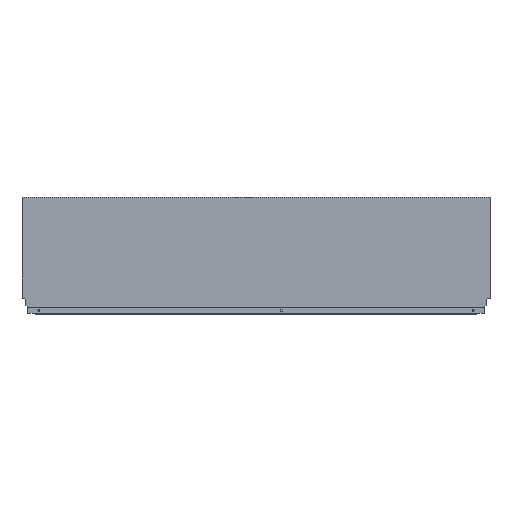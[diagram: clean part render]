
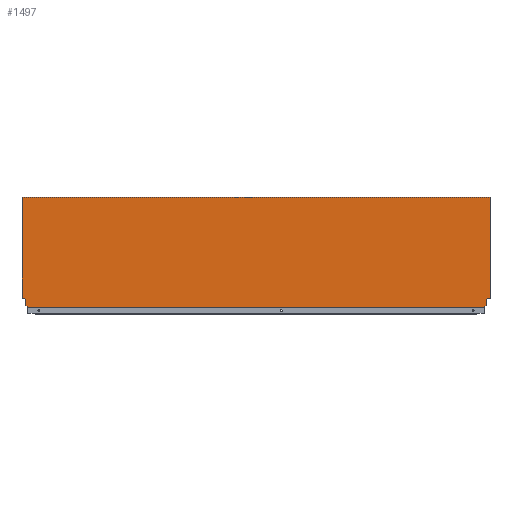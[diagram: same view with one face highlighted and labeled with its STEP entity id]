
A CAD part, top view. The second image highlights one B-rep face of the part: STEP entity #1497.
In plain terms, the highlighted planar face has unit normal (0, 0, 1).
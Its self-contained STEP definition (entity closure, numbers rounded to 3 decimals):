
#16 = AXIS2_PLACEMENT_3D ( 'NONE', #1072, #1213, #1212 ) ;
#68 = EDGE_CURVE ( 'NONE', #1339, #1034, #293, .T. ) ;
#69 = EDGE_CURVE ( 'NONE', #1034, #863, #587, .T. ) ;
#70 = EDGE_CURVE ( 'NONE', #863, #859, #278, .T. ) ;
#71 = EDGE_CURVE ( 'NONE', #859, #1042, #274, .T. ) ;
#72 = EDGE_CURVE ( 'NONE', #866, #872, #291, .T. ) ;
#192 = EDGE_CURVE ( 'NONE', #852, #1040, #644, .T. ) ;
#193 = EDGE_CURVE ( 'NONE', #1040, #841, #640, .T. ) ;
#194 = EDGE_CURVE ( 'NONE', #841, #1058, #603, .T. ) ;
#195 = EDGE_CURVE ( 'NONE', #857, #1064, #604, .T. ) ;
#196 = EDGE_CURVE ( 'NONE', #1058, #874, #606, .T. ) ;
#197 = EDGE_CURVE ( 'NONE', #874, #857, #295, .T. ) ;
#198 = EDGE_CURVE ( 'NONE', #852, #1042, #1496, .T. ) ;
#199 = EDGE_CURVE ( 'NONE', #1064, #872, #836, .T. ) ;
#274 = LINE ( 'NONE', #1024, #288 ) ;
#275 = VECTOR ( 'NONE', #1027, 1000. ) ;
#278 = LINE ( 'NONE', #1026, #290 ) ;
#286 = VECTOR ( 'NONE', #1019, 1000. ) ;
#288 = VECTOR ( 'NONE', #1021, 1000. ) ;
#290 = VECTOR ( 'NONE', #1023, 1000. ) ;
#291 = LINE ( 'NONE', #1022, #286 ) ;
#292 = VECTOR ( 'NONE', #1025, 1000. ) ;
#293 = LINE ( 'NONE', #839, #275 ) ;
#295 = LINE ( 'NONE', #1293, #1495 ) ;
#296 = VECTOR ( 'NONE', #1294, 1000. ) ;
#476 = ORIENTED_EDGE ( 'NONE', *, *, #71, .F. ) ;
#477 = ORIENTED_EDGE ( 'NONE', *, *, #70, .F. ) ;
#478 = ORIENTED_EDGE ( 'NONE', *, *, #69, .F. ) ;
#479 = ORIENTED_EDGE ( 'NONE', *, *, #192, .F. ) ;
#482 = ORIENTED_EDGE ( 'NONE', *, *, #196, .F. ) ;
#483 = ORIENTED_EDGE ( 'NONE', *, *, #194, .F. ) ;
#484 = ORIENTED_EDGE ( 'NONE', *, *, #193, .F. ) ;
#485 = ORIENTED_EDGE ( 'NONE', *, *, #199, .F. ) ;
#486 = ORIENTED_EDGE ( 'NONE', *, *, #195, .F. ) ;
#487 = ORIENTED_EDGE ( 'NONE', *, *, #197, .F. ) ;
#488 = ORIENTED_EDGE ( 'NONE', *, *, #68, .F. ) ;
#489 = ORIENTED_EDGE ( 'NONE', *, *, #876, .F. ) ;
#490 = ORIENTED_EDGE ( 'NONE', *, *, #72, .T. ) ;
#524 = EDGE_LOOP ( 'NONE', ( #592, #476, #477, #478, #488, #489, #490, #485, #486, #487, #482, #483, #484, #479 ) ) ;
#587 = LINE ( 'NONE', #1028, #292 ) ;
#592 = ORIENTED_EDGE ( 'NONE', *, *, #198, .T. ) ;
#601 = VECTOR ( 'NONE', #1320, 1000. ) ;
#602 = VECTOR ( 'NONE', #1130, 1000. ) ;
#603 = LINE ( 'NONE', #1296, #602 ) ;
#604 = LINE ( 'NONE', #1249, #605 ) ;
#605 = VECTOR ( 'NONE', #1323, 1000. ) ;
#606 = LINE ( 'NONE', #1322, #296 ) ;
#638 = VECTOR ( 'NONE', #1302, 1000. ) ;
#640 = LINE ( 'NONE', #1319, #601 ) ;
#644 = LINE ( 'NONE', #1102, #638 ) ;
#825 = FACE_OUTER_BOUND ( 'NONE', #524, .T. ) ;
#827 = VECTOR ( 'NONE', #1271, 1000. ) ;
#829 = LINE ( 'NONE', #1268, #827 ) ;
#836 = LINE ( 'NONE', #1197, #837 ) ;
#837 = VECTOR ( 'NONE', #1289, 1000. ) ;
#838 = VECTOR ( 'NONE', #1288, 1000. ) ;
#839 = CARTESIAN_POINT ( 'NONE',  ( -1104.1, 2.64, 8. ) ) ;
#841 = VERTEX_POINT ( 'NONE', #1256 ) ;
#852 = VERTEX_POINT ( 'NONE', #1112 ) ;
#857 = VERTEX_POINT ( 'NONE', #1490 ) ;
#859 = VERTEX_POINT ( 'NONE', #1117 ) ;
#863 = VERTEX_POINT ( 'NONE', #1156 ) ;
#866 = VERTEX_POINT ( 'NONE', #1139 ) ;
#872 = VERTEX_POINT ( 'NONE', #1169 ) ;
#874 = VERTEX_POINT ( 'NONE', #1177 ) ;
#876 = EDGE_CURVE ( 'NONE', #866, #1339, #829, .T. ) ;
#1019 = DIRECTION ( 'NONE',  ( 1., 0., 0. ) ) ;
#1021 = DIRECTION ( 'NONE',  ( -1., 0., 0. ) ) ;
#1022 = CARTESIAN_POINT ( 'NONE',  ( -1113., 0., 8. ) ) ;
#1023 = DIRECTION ( 'NONE',  ( -0.174, 0.985, 0. ) ) ;
#1024 = CARTESIAN_POINT ( 'NONE',  ( -1118., 21.2, 8. ) ) ;
#1025 = DIRECTION ( 'NONE',  ( 0., 1., 0. ) ) ;
#1026 = CARTESIAN_POINT ( 'NONE',  ( -1105.94, 21.2, 8. ) ) ;
#1027 = DIRECTION ( 'NONE',  ( -0.94, 0.342, 0. ) ) ;
#1028 = CARTESIAN_POINT ( 'NONE',  ( -1104.1, 10.765, 8. ) ) ;
#1034 = VERTEX_POINT ( 'NONE', #1273 ) ;
#1040 = VERTEX_POINT ( 'NONE', #1215 ) ;
#1042 = VERTEX_POINT ( 'NONE', #1218 ) ;
#1058 = VERTEX_POINT ( 'NONE', #1417 ) ;
#1064 = VERTEX_POINT ( 'NONE', #1468 ) ;
#1072 = CARTESIAN_POINT ( 'NONE',  ( -1113., 0., 8. ) ) ;
#1075 = PLANE ( 'NONE',  #16 ) ;
#1080 = CARTESIAN_POINT ( 'NONE',  ( -1099.996, 1.146, 8. ) ) ;
#1102 = CARTESIAN_POINT ( 'NONE',  ( -1113., 260.7, 8. ) ) ;
#1112 = CARTESIAN_POINT ( 'NONE',  ( -1113., 260.7, 8. ) ) ;
#1117 = CARTESIAN_POINT ( 'NONE',  ( -1105.94, 21.2, 8. ) ) ;
#1130 = DIRECTION ( 'NONE',  ( -1., 0., 0. ) ) ;
#1139 = CARTESIAN_POINT ( 'NONE',  ( -1099.996, 0., 8. ) ) ;
#1156 = CARTESIAN_POINT ( 'NONE',  ( -1104.1, 10.765, 8. ) ) ;
#1169 = CARTESIAN_POINT ( 'NONE',  ( -13.004, 0., 8. ) ) ;
#1177 = CARTESIAN_POINT ( 'NONE',  ( -8.9, 10.765, 8. ) ) ;
#1192 = CARTESIAN_POINT ( 'NONE',  ( -1113., 0., 8. ) ) ;
#1197 = CARTESIAN_POINT ( 'NONE',  ( -13.004, 1.146, 8. ) ) ;
#1212 = DIRECTION ( 'NONE',  ( 1., 0., 0. ) ) ;
#1213 = DIRECTION ( 'NONE',  ( 0., 0., 1. ) ) ;
#1215 = CARTESIAN_POINT ( 'NONE',  ( 0., 260.7, 8. ) ) ;
#1218 = CARTESIAN_POINT ( 'NONE',  ( -1113., 21.2, 8. ) ) ;
#1249 = CARTESIAN_POINT ( 'NONE',  ( -8.9, 2.64, 8. ) ) ;
#1256 = CARTESIAN_POINT ( 'NONE',  ( 0., 21.2, 8. ) ) ;
#1268 = CARTESIAN_POINT ( 'NONE',  ( -1099.996, 1.146, 8. ) ) ;
#1271 = DIRECTION ( 'NONE',  ( 0., 1., 0. ) ) ;
#1273 = CARTESIAN_POINT ( 'NONE',  ( -1104.1, 2.64, 8. ) ) ;
#1288 = DIRECTION ( 'NONE',  ( 0., -1., 0. ) ) ;
#1289 = DIRECTION ( 'NONE',  ( 0., -1., 0. ) ) ;
#1293 = CARTESIAN_POINT ( 'NONE',  ( -8.9, 10.765, 8. ) ) ;
#1294 = DIRECTION ( 'NONE',  ( -0.174, -0.985, 0. ) ) ;
#1296 = CARTESIAN_POINT ( 'NONE',  ( 0., 21.2, 8. ) ) ;
#1302 = DIRECTION ( 'NONE',  ( 1., 0., 0. ) ) ;
#1319 = CARTESIAN_POINT ( 'NONE',  ( 0., 0., 8. ) ) ;
#1320 = DIRECTION ( 'NONE',  ( 0., -1., 0. ) ) ;
#1322 = CARTESIAN_POINT ( 'NONE',  ( -7.06, 21.2, 8. ) ) ;
#1323 = DIRECTION ( 'NONE',  ( -0.94, -0.342, 0. ) ) ;
#1339 = VERTEX_POINT ( 'NONE', #1080 ) ;
#1398 = DIRECTION ( 'NONE',  ( 0., -1., 0. ) ) ;
#1417 = CARTESIAN_POINT ( 'NONE',  ( -7.06, 21.2, 8. ) ) ;
#1468 = CARTESIAN_POINT ( 'NONE',  ( -13.004, 1.146, 8. ) ) ;
#1490 = CARTESIAN_POINT ( 'NONE',  ( -8.9, 2.64, 8. ) ) ;
#1495 = VECTOR ( 'NONE', #1398, 1000. ) ;
#1496 = LINE ( 'NONE', #1192, #838 ) ;
#1497 = ADVANCED_FACE ( 'NONE', ( #825 ), #1075, .T. ) ;
